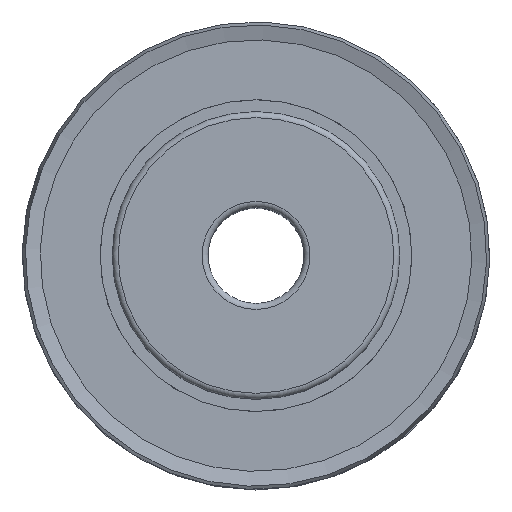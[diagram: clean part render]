
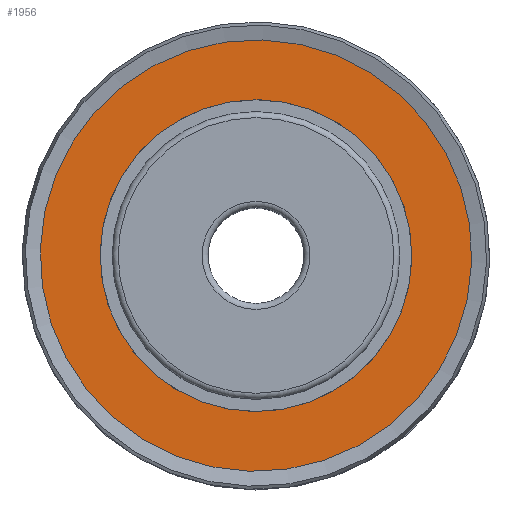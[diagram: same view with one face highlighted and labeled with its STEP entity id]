
A CAD part, top view. The second image highlights one B-rep face of the part: STEP entity #1956.
In plain terms, the highlighted planar face has unit normal (0, 0, 1) as drawn and (-1, 0, 0) by its records, which use the part's own axes.
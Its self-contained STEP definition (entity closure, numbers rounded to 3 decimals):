
#380=PLANE('',#2187);
#454=FACE_BOUND('',#679,.T.);
#560=FACE_OUTER_BOUND('',#678,.T.);
#678=EDGE_LOOP('',(#1841));
#679=EDGE_LOOP('',(#1842));
#811=CIRCLE('',#2188,18.);
#812=CIRCLE('',#2189,13.);
#1004=VERTEX_POINT('',#3400);
#1005=VERTEX_POINT('',#3402);
#1285=EDGE_CURVE('',#1004,#1004,#811,.T.);
#1286=EDGE_CURVE('',#1005,#1005,#812,.T.);
#1841=ORIENTED_EDGE('',*,*,#1285,.F.);
#1842=ORIENTED_EDGE('',*,*,#1286,.T.);
#1956=ADVANCED_FACE('',(#560,#454),#380,.T.);
#2187=AXIS2_PLACEMENT_3D('',#3399,#2803,#2804);
#2188=AXIS2_PLACEMENT_3D('',#3401,#2805,#2806);
#2189=AXIS2_PLACEMENT_3D('',#3403,#2807,#2808);
#2803=DIRECTION('center_axis',(-1.,0.,0.));
#2804=DIRECTION('ref_axis',(0.,0.,1.));
#2805=DIRECTION('center_axis',(1.,0.,0.));
#2806=DIRECTION('ref_axis',(0.,1.,0.));
#2807=DIRECTION('center_axis',(1.,0.,0.));
#2808=DIRECTION('ref_axis',(0.,1.,0.));
#3399=CARTESIAN_POINT('Origin',(-1.,15.5,0.));
#3400=CARTESIAN_POINT('',(-1.,18.,0.));
#3401=CARTESIAN_POINT('Origin',(-1.,0.,0.));
#3402=CARTESIAN_POINT('',(-1.,13.,0.));
#3403=CARTESIAN_POINT('Origin',(-1.,0.,0.));
